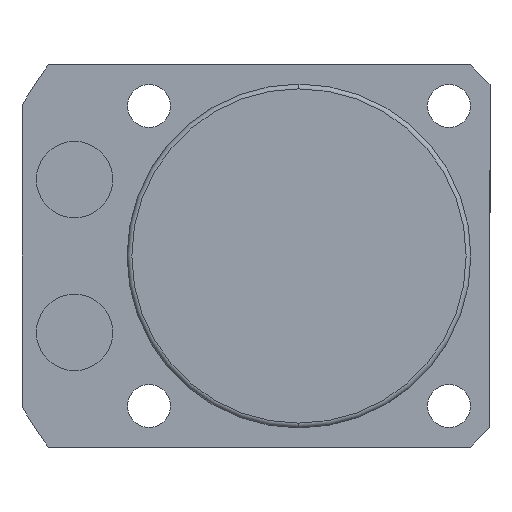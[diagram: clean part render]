
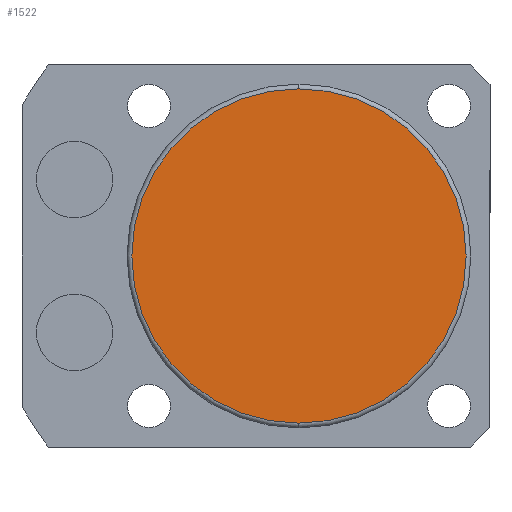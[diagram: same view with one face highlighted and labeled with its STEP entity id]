
A CAD part, front view. The second image highlights one B-rep face of the part: STEP entity #1522.
In plain terms, the highlighted planar face has unit normal (0, -1, 0).
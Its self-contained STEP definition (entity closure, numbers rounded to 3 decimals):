
#306 = CARTESIAN_POINT ( 'NONE',  ( 0., -45.5, 17.5 ) ) ;
#517 = AXIS2_PLACEMENT_3D ( 'NONE', #4589, #3813, #3444 ) ;
#704 = EDGE_CURVE ( 'NONE', #3213, #2119, #3520, .T. ) ;
#943 = DIRECTION ( 'NONE',  ( 0., 0., -1. ) ) ;
#1162 = CARTESIAN_POINT ( 'NONE',  ( 0., -45.5, 0. ) ) ;
#1363 = DIRECTION ( 'NONE',  ( 0., -1., 0. ) ) ;
#1453 = AXIS2_PLACEMENT_3D ( 'NONE', #3354, #1363, #943 ) ;
#1522 = ADVANCED_FACE ( 'NONE', ( #2271 ), #3524, .T. ) ;
#1761 = EDGE_LOOP ( 'NONE', ( #3152, #2361 ) ) ;
#2119 = VERTEX_POINT ( 'NONE', #306 ) ;
#2271 = FACE_OUTER_BOUND ( 'NONE', #1761, .T. ) ;
#2286 = CARTESIAN_POINT ( 'NONE',  ( 0., -45.5, -17.5 ) ) ;
#2361 = ORIENTED_EDGE ( 'NONE', *, *, #4702, .T. ) ;
#3152 = ORIENTED_EDGE ( 'NONE', *, *, #704, .T. ) ;
#3213 = VERTEX_POINT ( 'NONE', #2286 ) ;
#3354 = CARTESIAN_POINT ( 'NONE',  ( 0., -45.5, 0. ) ) ;
#3444 = DIRECTION ( 'NONE',  ( 0., 0., -1. ) ) ;
#3520 = CIRCLE ( 'NONE', #1453, 17.5 ) ;
#3524 = PLANE ( 'NONE',  #4170 ) ;
#3813 = DIRECTION ( 'NONE',  ( 0., -1., 0. ) ) ;
#3920 = DIRECTION ( 'NONE',  ( 0., 0., -1. ) ) ;
#4170 = AXIS2_PLACEMENT_3D ( 'NONE', #1162, #5089, #3920 ) ;
#4503 = CIRCLE ( 'NONE', #517, 17.5 ) ;
#4589 = CARTESIAN_POINT ( 'NONE',  ( 0., -45.5, 0. ) ) ;
#4702 = EDGE_CURVE ( 'NONE', #2119, #3213, #4503, .T. ) ;
#5089 = DIRECTION ( 'NONE',  ( 0., -1., 0. ) ) ;
